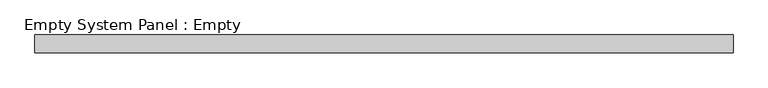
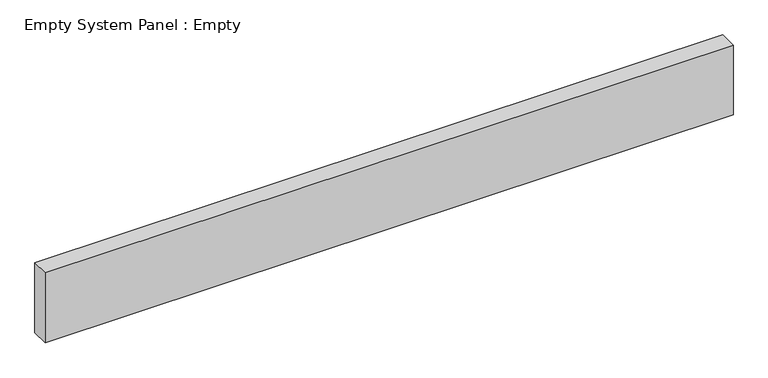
"""IFC4 building model written with IfcOpenShell, lengths in millimetres: plate geometry, Empty System Panel : Empty."""

import ifcopenshell
import ifcopenshell.guid

model = None  # the IFC model being written
_history = None  # IfcOwnerHistory: only IFC2X3 demands one
_inside = {}  # id of a spatial element -> (the spatial element, [elements in it])
_under = {}  # id of a project, library or spatial element -> (it, [spatial elements below it])
_declared = {}  # id of a project -> (the project, [libraries it declares])
_typed = {}  # id of a type object -> (the type object, [elements of that type])
_made_of = {}  # id of a material, layer set ... -> (it, [elements and type objects made of it])


def new_model(schema):
    """Start an empty IFC model of exactly this schema.

    Asked for "IFC4X3", IfcOpenShell would pick the latest addendum, in which some entities
    have other attributes; the version numbers below select the first issue.
    IFC2X3 requires an IfcOwnerHistory on every rooted entity: one is made here for all.
    """
    global model, _history
    if schema == "IFC4X3":
        model = ifcopenshell.file(schema_version=(4, 3, 0, 0))
    else:
        model = ifcopenshell.file(schema=schema)
    _inside.clear()
    _under.clear()
    _declared.clear()
    _typed.clear()
    _made_of.clear()
    _history = None
    if model.schema == "IFC2X3":
        org = make("IfcOrganization", Name="unknown")
        user = make(
            "IfcPersonAndOrganization",
            ThePerson=make("IfcPerson", FamilyName="unknown"),
            TheOrganization=org,
        )
        app = make(
            "IfcApplication",
            ApplicationDeveloper=org,
            Version="unknown",
            ApplicationFullName="unknown",
            ApplicationIdentifier="unknown",
        )
        _history = make(
            "IfcOwnerHistory",
            OwningUser=user,
            OwningApplication=app,
            ChangeAction="ADDED",
            CreationDate=0,
        )
    return model


def make(cls, **values):
    """One entity of the class cls with the attributes given. An attribute that is None is left unset."""
    return model.create_entity(
        cls, **{name: value for name, value in values.items() if value is not None}
    )


def rooted(cls, **values):
    """An entity with a GlobalId (a new one), such as an element, a storey or a relation."""
    return make(cls, GlobalId=ifcopenshell.guid.new(), OwnerHistory=_history, **values)


def si_unit(unit_type, name, prefix=None):
    """IfcSIUnit, for example si_unit("LENGTHUNIT", "METRE", prefix="MILLI")."""
    return make("IfcSIUnit", UnitType=unit_type, Prefix=prefix, Name=name)


def assignment(units):
    """IfcUnitAssignment: the units of a project."""
    return None if units is None else make("IfcUnitAssignment", Units=units)


def point(xyz):
    """IfcCartesianPoint."""
    return None if xyz is None else make("IfcCartesianPoint", Coordinates=xyz)


def direction(xyz):
    """IfcDirection."""
    return None if xyz is None else make("IfcDirection", DirectionRatios=xyz)


def frame(location, z_axis=None, x_axis=None):
    """IfcAxis2Placement3D, a coordinate frame: its origin and axes. An axis left out is left unset."""
    return make(
        "IfcAxis2Placement3D",
        Location=point(location),
        Axis=direction(z_axis),
        RefDirection=direction(x_axis),
    )


def origin():
    """The frame at (0, 0, 0) with its axes left unset."""
    return frame((0.0, 0.0, 0.0))


def origin_with_axes():
    """The frame at (0, 0, 0) with the z axis (0, 0, 1) and the x axis (1, 0, 0) written out."""
    return frame((0.0, 0.0, 0.0), z_axis=(0.0, 0.0, 1.0), x_axis=(1.0, 0.0, 0.0))


def place(relative_to, where):
    """IfcLocalPlacement: puts the frame where relative to a parent placement (None: the world)."""
    return make(
        "IfcLocalPlacement", PlacementRelTo=relative_to, RelativePlacement=where
    )


def context(
    kind, dimensions, precision=None, world=None, true_north=None, identifier=None
):
    """IfcGeometricRepresentationContext, for example the 3D "Model" context."""
    return make(
        "IfcGeometricRepresentationContext",
        ContextIdentifier=identifier,
        ContextType=kind,
        CoordinateSpaceDimension=dimensions,
        Precision=precision,
        WorldCoordinateSystem=world,
        TrueNorth=true_north,
    )


def project(units=None, contexts=None):
    """IfcProject with its units and contexts."""
    return rooted(
        "IfcProject",
        Name="project",
        RepresentationContexts=contexts,
        UnitsInContext=assignment(units),
    )


def spatial(cls, under=None, at=None, **own):
    """A site, building, storey or space (cls), placed at a placement, below another one or the project."""
    s = rooted(cls, ObjectPlacement=at, **own)
    if under is not None:
        _under.setdefault(under.id(), (under, []))[1].append(s)
    return s


def polyline(points):
    """IfcPolyline through the points."""
    return make("IfcPolyline", Points=[point(p) for p in points])


def outline(outer, holes=None, kind="AREA"):
    """IfcArbitraryClosedProfileDef: a profile drawn as a closed curve; with holes, ...WithVoids."""
    if holes is None:
        return make("IfcArbitraryClosedProfileDef", ProfileType=kind, OuterCurve=outer)
    return make(
        "IfcArbitraryProfileDefWithVoids",
        ProfileType=kind,
        OuterCurve=outer,
        InnerCurves=holes,
    )


def extrude(swept, where, along, depth):
    """IfcExtrudedAreaSolid: the profile swept, set in the frame where, extruded along a direction by depth."""
    return make(
        "IfcExtrudedAreaSolid",
        SweptArea=swept,
        Position=where,
        ExtrudedDirection=direction(along),
        Depth=depth,
    )


def shape(context_of_items, identifier, shape_type, items):
    """IfcShapeRepresentation: the items that make up one representation, for example the "Body"."""
    return make(
        "IfcShapeRepresentation",
        ContextOfItems=context_of_items,
        RepresentationIdentifier=identifier,
        RepresentationType=shape_type,
        Items=items,
    )


def source(mapping_origin, context_of_items, identifier, shape_type, items):
    """IfcRepresentationMap: a shape defined once, which mapped items show again and again."""
    return make(
        "IfcRepresentationMap",
        MappingOrigin=mapping_origin,
        MappedRepresentation=shape(context_of_items, identifier, shape_type, items),
    )


def transform(
    local_origin,
    x_axis=None,
    y_axis=None,
    z_axis=None,
    scale=None,
    scale2=None,
    scale3=None,
    uniform=True,
):
    """IfcCartesianTransformationOperator3D, or its non-uniform kind. x_axis, y_axis, z_axis: its Axis1, 2, 3."""
    if uniform:
        return make(
            "IfcCartesianTransformationOperator3D",
            Axis1=direction(x_axis),
            Axis2=direction(y_axis),
            LocalOrigin=point(local_origin),
            Scale=scale,
            Axis3=direction(z_axis),
        )
    return make(
        "IfcCartesianTransformationOperator3DnonUniform",
        Axis1=direction(x_axis),
        Axis2=direction(y_axis),
        LocalOrigin=point(local_origin),
        Scale=scale,
        Axis3=direction(z_axis),
        Scale2=scale2,
        Scale3=scale3,
    )


def mapped(mapping_source, mapping_target):
    """IfcMappedItem: shows the shape of a source again, moved by a transform."""
    return make(
        "IfcMappedItem", MappingSource=mapping_source, MappingTarget=mapping_target
    )


def made_of(thing, what):
    """Note that an element or type object is made of a material, layer set ...; save() writes the relation."""
    if what is not None:
        _made_of.setdefault(what.id(), (what, []))[1].append(thing)
    return thing


def element(
    cls,
    number,
    at=None,
    inside=None,
    cuts=None,
    type_object=None,
    material=None,
    context=None,
    identifier="Body",
    shape_type=None,
    held_by="IfcProductDefinitionShape",
    body=None,
    shapes=None,
    **own,
):
    """One element of the class cls, such as IfcWall. Its Tag is "e" and its number.

    at: its placement. inside: the storey or other place that contains it. cuts: it is an
    opening in that element (IfcRelVoidsElement). A single representation is given by context,
    identifier, shape_type and body (its items); several are given by shapes. held_by: the class
    of the entity that holds the representations. save() writes the other relations.
    """
    e = rooted(cls, Tag="e%d" % number, ObjectPlacement=at, **own)
    if body is not None:
        shapes = [shape(context, identifier, shape_type, body)]
    if shapes is not None:
        e.Representation = make(held_by, Representations=shapes)
    if inside is not None:
        _inside.setdefault(inside.id(), (inside, []))[1].append(e)
    if cuts is not None:
        rooted(
            "IfcRelVoidsElement", RelatingBuildingElement=cuts, RelatedOpeningElement=e
        )
    if type_object is not None:
        _typed.setdefault(type_object.id(), (type_object, []))[1].append(e)
    return made_of(e, material)


def aggregate(whole, parts):
    """IfcRelAggregates: a whole, such as a stair, and the parts it consists of."""
    return rooted("IfcRelAggregates", RelatingObject=whole, RelatedObjects=parts)


def save(model, path):
    """Write the relations noted so far, then the file.

    IfcRelAggregates (storeys below a building ...), IfcRelContainedInSpatialStructure (elements
    in a storey), IfcRelDefinesByType, IfcRelAssociatesMaterial and IfcRelDeclares: one each for
    every whole, place, type object, material and project.
    """
    for whole, parts in _under.values():
        aggregate(whole, parts)
    for where, things in _inside.values():
        rooted(
            "IfcRelContainedInSpatialStructure",
            RelatedElements=things,
            RelatingStructure=where,
        )
    for kind, things in _typed.values():
        rooted("IfcRelDefinesByType", RelatedObjects=things, RelatingType=kind)
    for what, things in _made_of.values():
        rooted("IfcRelAssociatesMaterial", RelatedObjects=things, RelatingMaterial=what)
    for by, libraries in _declared.values():
        rooted("IfcRelDeclares", RelatingContext=by, RelatedDefinitions=libraries)
    model.write(path)


def empty_system_panel_empty_cc8383ed(model_context):
    return source(origin(), model_context, "Body", "SweptSolid", [
        extrude(outline(polyline([(1950.0, -150.0), (-1950.0, -150.0), (-1950.0, -50.0), (1950.0, -50.0), (1950.0, -150.0)])), origin_with_axes(), (0.0, 0.0, 1.0), 418.4),
    ])


if __name__ == "__main__":
    model = new_model("IFC4")
    model_context = context("Model", 3, world=origin())
    ifc_project = project(units=[si_unit("LENGTHUNIT", "METRE", prefix="MILLI")], contexts=[model_context])
    site = spatial("IfcSite", under=ifc_project)
    building = spatial("IfcBuilding", under=site)
    placement = place(None, origin())
    empty_system_panel_empty_shape = empty_system_panel_empty_cc8383ed(model_context)
    element("IfcPlate", 1, ObjectType="Empty System Panel : Empty", at=placement, inside=building, context=model_context, shape_type="MappedRepresentation", body=[
        mapped(empty_system_panel_empty_shape, transform((0.0, 0.0, 0.0), x_axis=(1.0, 0.0, 0.0), y_axis=(0.0, 1.0, 0.0), z_axis=(0.0, 0.0, 1.0))),
    ])
    save(model, "model.ifc")
